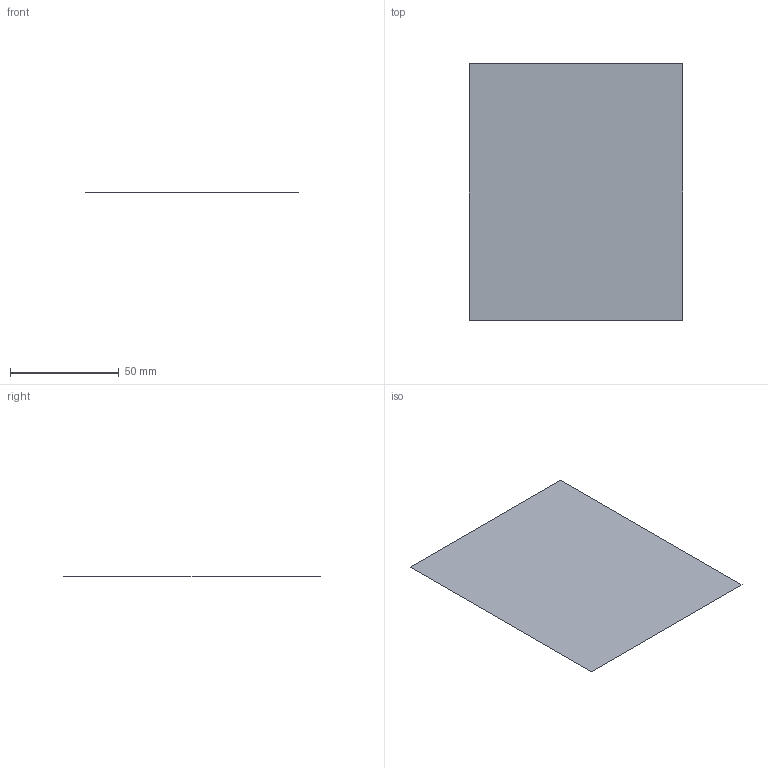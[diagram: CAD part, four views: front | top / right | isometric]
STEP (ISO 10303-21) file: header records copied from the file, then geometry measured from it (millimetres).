
FILE_DESCRIPTION(('CATIA V5 STEP Exchange'),'2;1');
FILE_NAME('C:\_Andres\UNIVERSIDAD\IQS\ASIGNATURAS\DAO\EXF\EXF-15161c\1original\Forés_Garriga_Ej06-calculo_v8.stp','2016-03-04T20:57:42+00:00',('none'),('none'),'CATIA Version 5 Release 20 SP 1 (IN-10)','CATIA V5 STEP AP203','none');
FILE_SCHEMA(('CONFIG_CONTROL_DESIGN'));
Length unit declared in the file: millimetre
Products named in the file (1): Forés_Garriga_Ej06-calculo_v8
Bounding box: 98 x 118 x 0 mm (x, y, z)
Surface area: 11564 mm2 (no closed solid volume)
Topology: 0 solids, 1 shells, 1 faces, 8 edges, 9 vertices
Faces by surface type: plane 1
Entity records: 130 total; most frequent: CARTESIAN_POINT 23, DIRECTION 12, VECTOR 8, LINE 8, COMPOSITE_CURVE_SEGMENT 4, ORIENTED_EDGE 4, CC_DESIGN_PERSON_AND_ORGANIZATION_ASSIGNMENT 4, PERSON_AND_ORGANIZATION_ROLE 4
